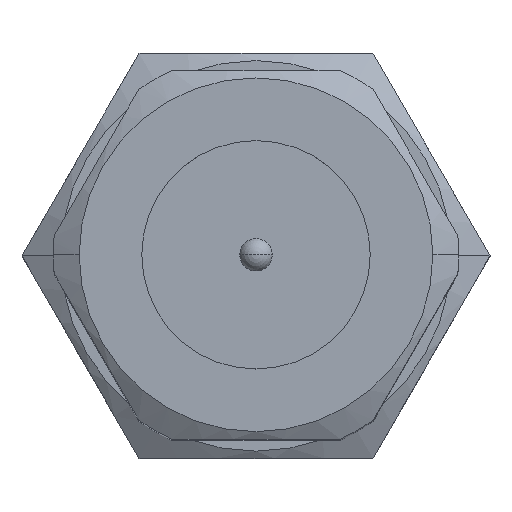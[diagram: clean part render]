
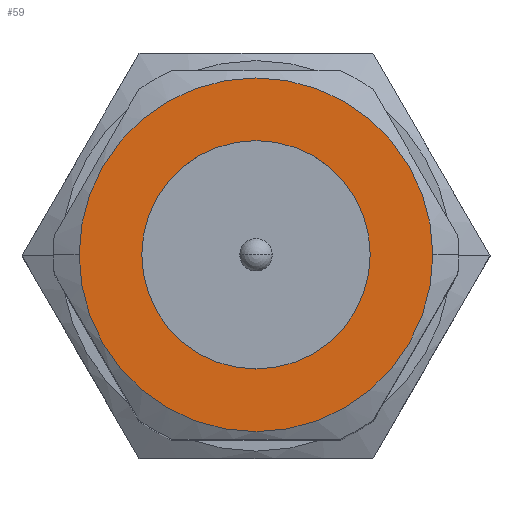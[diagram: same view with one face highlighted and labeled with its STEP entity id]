
A CAD part, top view. The second image highlights one B-rep face of the part: STEP entity #59.
In plain terms, the highlighted planar face has unit normal (0, 0, 1).
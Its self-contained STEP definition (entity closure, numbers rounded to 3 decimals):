
#59=ADVANCED_FACE('',(#277,#278),#276,.T.);
#276=PLANE('',#609);
#277=FACE_OUTER_BOUND('',#610,.T.);
#278=FACE_BOUND('',#611,.T.);
#606=CARTESIAN_POINT('',(-55.2,-49.883,128.));
#607=DIRECTION('',(0.,0.,1.));
#608=DIRECTION('',(1.,0.,0.));
#609=AXIS2_PLACEMENT_3D('',#606,#607,#608);
#610=EDGE_LOOP('',(#884,#885));
#611=EDGE_LOOP('',(#886,#887));
#884=ORIENTED_EDGE('',*,*,#1073,.F.);
#885=ORIENTED_EDGE('',*,*,#1074,.F.);
#886=ORIENTED_EDGE('',*,*,#1075,.T.);
#887=ORIENTED_EDGE('',*,*,#1076,.T.);
#1073=EDGE_CURVE('',#1564,#1565,#1566,.T.);
#1074=EDGE_CURVE('',#1565,#1564,#1572,.T.);
#1075=EDGE_CURVE('',#1578,#1579,#1580,.T.);
#1076=EDGE_CURVE('',#1579,#1578,#1586,.T.);
#1564=VERTEX_POINT('',#2412);
#1565=VERTEX_POINT('',#2413);
#1566=CIRCLE('',#2417,24.);
#1572=CIRCLE('',#2421,24.);
#1578=VERTEX_POINT('',#2422);
#1579=VERTEX_POINT('',#2423);
#1580=CIRCLE('',#2427,15.5);
#1586=CIRCLE('',#2431,15.5);
#2412=CARTESIAN_POINT('',(-24.,0.,128.));
#2413=CARTESIAN_POINT('',(24.,0.,128.));
#2414=CARTESIAN_POINT('',(0.,0.,128.));
#2415=DIRECTION('',(0.,0.,-1.));
#2416=DIRECTION('',(1.,0.,0.));
#2417=AXIS2_PLACEMENT_3D('',#2414,#2415,#2416);
#2418=CARTESIAN_POINT('',(0.,0.,128.));
#2419=DIRECTION('',(0.,0.,-1.));
#2420=DIRECTION('',(1.,0.,0.));
#2421=AXIS2_PLACEMENT_3D('',#2418,#2419,#2420);
#2422=CARTESIAN_POINT('',(-15.5,0.,128.));
#2423=CARTESIAN_POINT('',(15.5,0.,128.));
#2424=CARTESIAN_POINT('',(0.,0.,128.));
#2425=DIRECTION('',(0.,0.,-1.));
#2426=DIRECTION('',(-1.,0.,0.));
#2427=AXIS2_PLACEMENT_3D('',#2424,#2425,#2426);
#2428=CARTESIAN_POINT('',(0.,0.,128.));
#2429=DIRECTION('',(0.,0.,-1.));
#2430=DIRECTION('',(-1.,0.,0.));
#2431=AXIS2_PLACEMENT_3D('',#2428,#2429,#2430);
